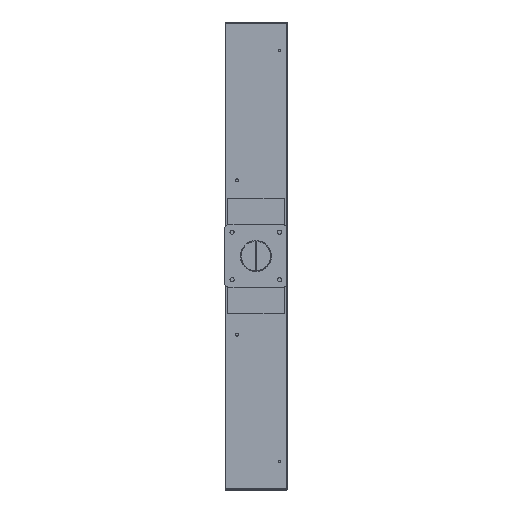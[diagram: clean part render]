
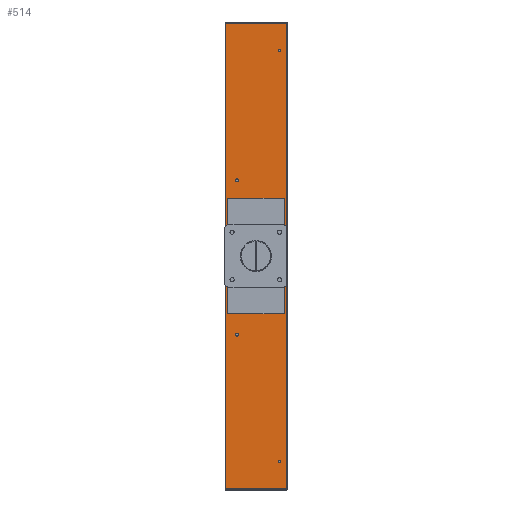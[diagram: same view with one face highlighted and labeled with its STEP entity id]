
A CAD part, left-side view. The second image highlights one B-rep face of the part: STEP entity #514.
In plain terms, the highlighted planar face has unit normal (-1, 0, 0).
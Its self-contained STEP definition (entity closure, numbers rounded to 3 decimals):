
#514=ADVANCED_FACE('',(#1239,#878,#879,#880,#881,#882),#8833,.T.);
#878=FACE_BOUND('',#1926,.T.);
#879=FACE_BOUND('',#1927,.T.);
#880=FACE_BOUND('',#1928,.T.);
#881=FACE_BOUND('',#1929,.T.);
#882=FACE_BOUND('',#1930,.T.);
#1239=FACE_OUTER_BOUND('',#1925,.T.);
#1925=EDGE_LOOP('',(#3979,#3980,#3981,#3982,#3983,#3984));
#1926=EDGE_LOOP('',(#3985));
#1927=EDGE_LOOP('',(#3986));
#1928=EDGE_LOOP('',(#3987));
#1929=EDGE_LOOP('',(#3988));
#1930=EDGE_LOOP('',(#3989));
#3979=ORIENTED_EDGE('',*,*,#5475,.T.);
#3980=ORIENTED_EDGE('',*,*,#5856,.F.);
#3981=ORIENTED_EDGE('',*,*,#5489,.F.);
#3982=ORIENTED_EDGE('',*,*,#5487,.F.);
#3983=ORIENTED_EDGE('',*,*,#5883,.T.);
#3984=ORIENTED_EDGE('',*,*,#5476,.F.);
#3985=ORIENTED_EDGE('',*,*,#5897,.T.);
#3986=ORIENTED_EDGE('',*,*,#5900,.T.);
#3987=ORIENTED_EDGE('',*,*,#5903,.T.);
#3988=ORIENTED_EDGE('',*,*,#5906,.T.);
#3989=ORIENTED_EDGE('',*,*,#6017,.T.);
#5475=EDGE_CURVE('',#8121,#8119,#7113,.T.);
#5476=EDGE_CURVE('',#8121,#8117,#7114,.T.);
#5487=EDGE_CURVE('',#8126,#8128,#7123,.T.);
#5489=EDGE_CURVE('',#8128,#8127,#7125,.T.);
#5856=EDGE_CURVE('',#8127,#8119,#7491,.T.);
#5883=EDGE_CURVE('',#8126,#8117,#7515,.T.);
#5897=EDGE_CURVE('',#8396,#8396,#6483,.T.);
#5900=EDGE_CURVE('',#8398,#8398,#6486,.T.);
#5903=EDGE_CURVE('',#8400,#8400,#6489,.T.);
#5906=EDGE_CURVE('',#8402,#8402,#6492,.T.);
#6017=EDGE_CURVE('',#8476,#8476,#6603,.T.);
#6483=(
BOUNDED_CURVE()
B_SPLINE_CURVE(2,(#17551,#17552,#17553,#17554,#17555,#17556,#17557,#17558,
#17559),.UNSPECIFIED.,.T.,.F.)
B_SPLINE_CURVE_WITH_KNOTS((3,2,2,2,3),(0.,4.32,8.639,
12.959,17.279),.UNSPECIFIED.)
CURVE()
GEOMETRIC_REPRESENTATION_ITEM()
RATIONAL_B_SPLINE_CURVE((1.,0.707,1.,0.707,1.,0.707,
1.,0.707,1.))
REPRESENTATION_ITEM('')
);
#6486=(
BOUNDED_CURVE()
B_SPLINE_CURVE(2,(#17571,#17572,#17573,#17574,#17575,#17576,#17577,#17578,
#17579),.UNSPECIFIED.,.T.,.F.)
B_SPLINE_CURVE_WITH_KNOTS((3,2,2,2,3),(0.,4.32,8.639,
12.959,17.279),.UNSPECIFIED.)
CURVE()
GEOMETRIC_REPRESENTATION_ITEM()
RATIONAL_B_SPLINE_CURVE((1.,0.707,1.,0.707,1.,0.707,
1.,0.707,1.))
REPRESENTATION_ITEM('')
);
#6489=(
BOUNDED_CURVE()
B_SPLINE_CURVE(2,(#17591,#17592,#17593,#17594,#17595,#17596,#17597,#17598,
#17599),.UNSPECIFIED.,.T.,.F.)
B_SPLINE_CURVE_WITH_KNOTS((3,2,2,2,3),(-17.279,-12.959,
-8.639,-4.32,0.),.UNSPECIFIED.)
CURVE()
GEOMETRIC_REPRESENTATION_ITEM()
RATIONAL_B_SPLINE_CURVE((1.,0.707,1.,0.707,1.,0.707,
1.,0.707,1.))
REPRESENTATION_ITEM('')
);
#6492=(
BOUNDED_CURVE()
B_SPLINE_CURVE(2,(#17611,#17612,#17613,#17614,#17615,#17616,#17617,#17618,
#17619),.UNSPECIFIED.,.T.,.F.)
B_SPLINE_CURVE_WITH_KNOTS((3,2,2,2,3),(0.,4.32,8.639,
12.959,17.279),.UNSPECIFIED.)
CURVE()
GEOMETRIC_REPRESENTATION_ITEM()
RATIONAL_B_SPLINE_CURVE((1.,0.707,1.,0.707,1.,0.707,
1.,0.707,1.))
REPRESENTATION_ITEM('')
);
#6603=(
BOUNDED_CURVE()
B_SPLINE_CURVE(2,(#18351,#18352,#18353,#18354,#18355,#18356,#18357,#18358,
#18359),.UNSPECIFIED.,.T.,.F.)
B_SPLINE_CURVE_WITH_KNOTS((3,2,2,2,3),(219.911,274.889,
329.867,384.845,439.823),.UNSPECIFIED.)
CURVE()
GEOMETRIC_REPRESENTATION_ITEM()
RATIONAL_B_SPLINE_CURVE((1.,0.707,1.,0.707,1.,0.707,
1.,0.707,1.))
REPRESENTATION_ITEM('')
);
#7113=B_SPLINE_CURVE_WITH_KNOTS('',1,(#16090,#16091),.UNSPECIFIED.,.F.,
 .F.,(2,2),(0.,2.),.UNSPECIFIED.);
#7114=B_SPLINE_CURVE_WITH_KNOTS('',1,(#16092,#16093),.UNSPECIFIED.,.F.,
 .F.,(2,2),(-656.059,-537.059),.UNSPECIFIED.);
#7123=B_SPLINE_CURVE_WITH_KNOTS('',1,(#16126,#16127),.UNSPECIFIED.,.F.,
 .F.,(2,2),(-1074.117,-955.117),.UNSPECIFIED.);
#7125=B_SPLINE_CURVE_WITH_KNOTS('',1,(#16130,#16131),.UNSPECIFIED.,.F.,
 .F.,(2,2),(0.,2.),.UNSPECIFIED.);
#7491=B_SPLINE_CURVE_WITH_KNOTS('',1,(#17381,#17382),.UNSPECIFIED.,.F.,
 .F.,(2,2),(0.,900.),.UNSPECIFIED.);
#7515=B_SPLINE_CURVE_WITH_KNOTS('',1,(#17458,#17459,#17460,#17461),
 .UNSPECIFIED.,.F.,.F.,(2,1,1,2),(-902.,-900.,0.,
2.),.UNSPECIFIED.);
#8117=VERTEX_POINT('',#15691);
#8119=VERTEX_POINT('',#15693);
#8121=VERTEX_POINT('',#15695);
#8126=VERTEX_POINT('',#15700);
#8127=VERTEX_POINT('',#15701);
#8128=VERTEX_POINT('',#15702);
#8396=VERTEX_POINT('',#15970);
#8398=VERTEX_POINT('',#15972);
#8400=VERTEX_POINT('',#15974);
#8402=VERTEX_POINT('',#15976);
#8476=VERTEX_POINT('',#16050);
#8833=PLANE('',#9213);
#9213=AXIS2_PLACEMENT_3D('',#14860,#9298,$);
#9298=DIRECTION('',(-1.,0.,0.));
#14860=CARTESIAN_POINT('',(0.,-1.,904.));
#15691=CARTESIAN_POINT('',(0.,119.,0.));
#15693=CARTESIAN_POINT('',(0.,0.,2.));
#15695=CARTESIAN_POINT('',(0.,0.,0.));
#15700=CARTESIAN_POINT('',(0.,119.,904.));
#15701=CARTESIAN_POINT('',(0.,0.,902.));
#15702=CARTESIAN_POINT('',(0.,0.,904.));
#15970=CARTESIAN_POINT('',(0.,16.75,849.));
#15972=CARTESIAN_POINT('',(0.,98.748,598.181));
#15974=CARTESIAN_POINT('',(0.,98.748,300.));
#15976=CARTESIAN_POINT('',(0.,16.75,55.));
#16050=CARTESIAN_POINT('',(0.,59.5,482.));
#16090=CARTESIAN_POINT('',(0.,0.,0.));
#16091=CARTESIAN_POINT('',(0.,0.,2.));
#16092=CARTESIAN_POINT('',(0.,0.,0.));
#16093=CARTESIAN_POINT('',(0.,119.,0.));
#16126=CARTESIAN_POINT('',(0.,119.,904.));
#16127=CARTESIAN_POINT('',(0.,0.,904.));
#16130=CARTESIAN_POINT('',(0.,0.,904.));
#16131=CARTESIAN_POINT('',(0.,0.,902.));
#17381=CARTESIAN_POINT('',(0.,0.,902.));
#17382=CARTESIAN_POINT('',(0.,0.,2.));
#17458=CARTESIAN_POINT('',(0.,119.,904.));
#17459=CARTESIAN_POINT('',(0.,119.,902.));
#17460=CARTESIAN_POINT('',(0.,119.,2.));
#17461=CARTESIAN_POINT('',(0.,119.,0.));
#17551=CARTESIAN_POINT('',(0.,16.75,849.));
#17552=CARTESIAN_POINT('',(0.,16.75,851.75));
#17553=CARTESIAN_POINT('',(0.,14.,851.75));
#17554=CARTESIAN_POINT('',(0.,11.25,851.75));
#17555=CARTESIAN_POINT('',(0.,11.25,849.));
#17556=CARTESIAN_POINT('',(0.,11.25,846.25));
#17557=CARTESIAN_POINT('',(0.,14.,846.25));
#17558=CARTESIAN_POINT('',(0.,16.75,846.25));
#17559=CARTESIAN_POINT('',(0.,16.75,849.));
#17571=CARTESIAN_POINT('',(0.,98.748,598.181));
#17572=CARTESIAN_POINT('',(0.,98.748,600.931));
#17573=CARTESIAN_POINT('',(0.,95.998,600.931));
#17574=CARTESIAN_POINT('',(0.,93.248,600.931));
#17575=CARTESIAN_POINT('',(0.,93.248,598.181));
#17576=CARTESIAN_POINT('',(0.,93.248,595.431));
#17577=CARTESIAN_POINT('',(0.,95.998,595.431));
#17578=CARTESIAN_POINT('',(0.,98.748,595.431));
#17579=CARTESIAN_POINT('',(0.,98.748,598.181));
#17591=CARTESIAN_POINT('',(0.,98.748,300.));
#17592=CARTESIAN_POINT('',(0.,98.748,302.75));
#17593=CARTESIAN_POINT('',(0.,95.998,302.75));
#17594=CARTESIAN_POINT('',(0.,93.248,302.75));
#17595=CARTESIAN_POINT('',(0.,93.248,300.));
#17596=CARTESIAN_POINT('',(0.,93.248,297.25));
#17597=CARTESIAN_POINT('',(0.,95.998,297.25));
#17598=CARTESIAN_POINT('',(0.,98.748,297.25));
#17599=CARTESIAN_POINT('',(0.,98.748,300.));
#17611=CARTESIAN_POINT('',(0.,16.75,55.));
#17612=CARTESIAN_POINT('',(0.,16.75,57.75));
#17613=CARTESIAN_POINT('',(0.,14.,57.75));
#17614=CARTESIAN_POINT('',(0.,11.25,57.75));
#17615=CARTESIAN_POINT('',(0.,11.25,55.));
#17616=CARTESIAN_POINT('',(0.,11.25,52.25));
#17617=CARTESIAN_POINT('',(0.,14.,52.25));
#17618=CARTESIAN_POINT('',(0.,16.75,52.25));
#17619=CARTESIAN_POINT('',(0.,16.75,55.));
#18351=CARTESIAN_POINT('',(0.,59.5,482.));
#18352=CARTESIAN_POINT('',(0.,29.5,482.));
#18353=CARTESIAN_POINT('',(0.,29.5,452.));
#18354=CARTESIAN_POINT('',(0.,29.5,422.));
#18355=CARTESIAN_POINT('',(0.,59.5,422.));
#18356=CARTESIAN_POINT('',(0.,89.5,422.));
#18357=CARTESIAN_POINT('',(0.,89.5,452.));
#18358=CARTESIAN_POINT('',(0.,89.5,482.));
#18359=CARTESIAN_POINT('',(0.,59.5,482.));
